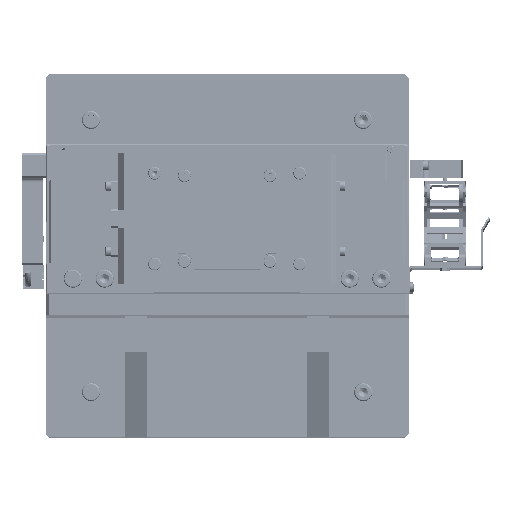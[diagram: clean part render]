
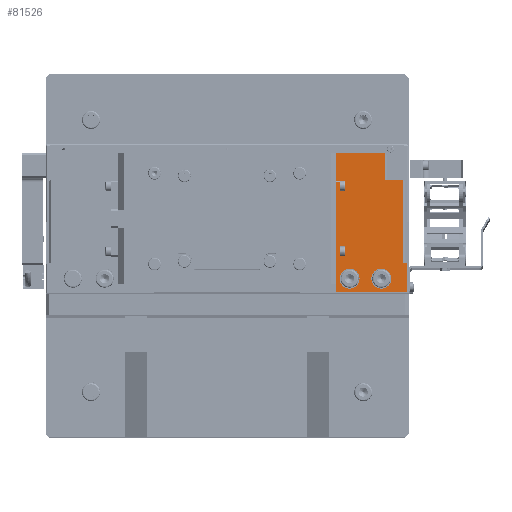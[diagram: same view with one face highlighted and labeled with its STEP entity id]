
A CAD part, top view. The second image highlights one B-rep face of the part: STEP entity #81526.
In plain terms, the highlighted planar face has unit normal (0, 0, 1).
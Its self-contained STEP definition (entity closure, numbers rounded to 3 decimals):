
#93 = CARTESIAN_POINT ( 'NONE',  ( 54., 56., 428. ) ) ;
#778 = VECTOR ( 'NONE', #19517, 1000. ) ;
#877 = CARTESIAN_POINT ( 'NONE',  ( 98., 16.5, 428. ) ) ;
#1343 = EDGE_LOOP ( 'NONE', ( #19737, #102582 ) ) ;
#1481 = VERTEX_POINT ( 'NONE', #134175 ) ;
#1722 = ORIENTED_EDGE ( 'NONE', *, *, #68131, .T. ) ;
#2663 = DIRECTION ( 'NONE',  ( -1., 0., 0. ) ) ;
#3699 = AXIS2_PLACEMENT_3D ( 'NONE', #4084, #87878, #34212 ) ;
#4084 = CARTESIAN_POINT ( 'NONE',  ( 85., 8., 428. ) ) ;
#6283 = VECTOR ( 'NONE', #84954, 1000. ) ;
#6489 = CARTESIAN_POINT ( 'NONE',  ( 0., 0.5, 428. ) ) ;
#7324 = LINE ( 'NONE', #32649, #48755 ) ;
#8349 = CARTESIAN_POINT ( 'NONE',  ( 99., 16.5, 428. ) ) ;
#8466 = LINE ( 'NONE', #44011, #39909 ) ;
#9596 = VERTEX_POINT ( 'NONE', #117594 ) ;
#9778 = ORIENTED_EDGE ( 'NONE', *, *, #125317, .F. ) ;
#11176 = DIRECTION ( 'NONE',  ( 1., 0., 0. ) ) ;
#12464 = LINE ( 'NONE', #94593, #106939 ) ;
#13644 = EDGE_CURVE ( 'NONE', #28393, #75849, #54439, .T. ) ;
#15604 = ORIENTED_EDGE ( 'NONE', *, *, #101775, .F. ) ;
#15940 = EDGE_CURVE ( 'NONE', #28393, #113592, #7324, .T. ) ;
#16954 = CARTESIAN_POINT ( 'NONE',  ( 97., 0.5, 428. ) ) ;
#17763 = VECTOR ( 'NONE', #59276, 1000. ) ;
#18248 = VERTEX_POINT ( 'NONE', #127017 ) ;
#18505 = CARTESIAN_POINT ( 'NONE',  ( 90.5, 8., 428. ) ) ;
#19060 = EDGE_LOOP ( 'NONE', ( #31264, #33065, #15604, #124508, #1722, #135804, #119066, #9778, #101461, #137096, #126838, #119046 ) ) ;
#19517 = DIRECTION ( 'NONE',  ( -1., 0., 0. ) ) ;
#19737 = ORIENTED_EDGE ( 'NONE', *, *, #125474, .F. ) ;
#24670 = DIRECTION ( 'NONE',  ( 0., 0., 1. ) ) ;
#25078 = VERTEX_POINT ( 'NONE', #65970 ) ;
#26216 = DIRECTION ( 'NONE',  ( 0., 1., 0. ) ) ;
#26218 = CIRCLE ( 'NONE', #56557, 5.5 ) ;
#26846 = PLANE ( 'NONE',  #126635 ) ;
#27799 = DIRECTION ( 'NONE',  ( 0., 0., 1. ) ) ;
#28393 = VERTEX_POINT ( 'NONE', #109943 ) ;
#31264 = ORIENTED_EDGE ( 'NONE', *, *, #13644, .F. ) ;
#32289 = LINE ( 'NONE', #83862, #778 ) ;
#32484 = DIRECTION ( 'NONE',  ( 0., 0., 1. ) ) ;
#32649 = CARTESIAN_POINT ( 'NONE',  ( -60., 26., 428. ) ) ;
#33065 = ORIENTED_EDGE ( 'NONE', *, *, #15940, .T. ) ;
#34212 = DIRECTION ( 'NONE',  ( 1., 0., 0. ) ) ;
#34951 = AXIS2_PLACEMENT_3D ( 'NONE', #126477, #32484, #11176 ) ;
#36160 = CARTESIAN_POINT ( 'NONE',  ( 87., 77., 428. ) ) ;
#38399 = EDGE_CURVE ( 'NONE', #130316, #45556, #67078, .T. ) ;
#39287 = CARTESIAN_POINT ( 'NONE',  ( 60., 26., 428. ) ) ;
#39909 = VECTOR ( 'NONE', #118560, 1000. ) ;
#42350 = CARTESIAN_POINT ( 'NONE',  ( 88., 62.5, 428. ) ) ;
#43453 = CARTESIAN_POINT ( 'NONE',  ( 87., 62.5, 428. ) ) ;
#44011 = CARTESIAN_POINT ( 'NONE',  ( 88., 77., 428. ) ) ;
#45556 = VERTEX_POINT ( 'NONE', #18505 ) ;
#46432 = VECTOR ( 'NONE', #54088, 1000. ) ;
#48755 = VECTOR ( 'NONE', #108990, 1000. ) ;
#51504 = DIRECTION ( 'NONE',  ( 0., 1., 0. ) ) ;
#52236 = DIRECTION ( 'NONE',  ( 0., 1., 0. ) ) ;
#54088 = DIRECTION ( 'NONE',  ( 1., 0., 0. ) ) ;
#54439 = LINE ( 'NONE', #136031, #77562 ) ;
#54958 = CARTESIAN_POINT ( 'NONE',  ( 100., 0.5, 428. ) ) ;
#56557 = AXIS2_PLACEMENT_3D ( 'NONE', #88144, #24670, #131632 ) ;
#59276 = DIRECTION ( 'NONE',  ( 0., 1., 0. ) ) ;
#59989 = CIRCLE ( 'NONE', #34951, 5.5 ) ;
#60302 = AXIS2_PLACEMENT_3D ( 'NONE', #102772, #27799, #81477 ) ;
#62583 = CARTESIAN_POINT ( 'NONE',  ( 60., 77., 428. ) ) ;
#63922 = CARTESIAN_POINT ( 'NONE',  ( 97., 16.5, 428. ) ) ;
#64649 = CARTESIAN_POINT ( 'NONE',  ( 87., 0.5, 428. ) ) ;
#65970 = CARTESIAN_POINT ( 'NONE',  ( 60., 56., 428. ) ) ;
#67078 = CIRCLE ( 'NONE', #3699, 5.5 ) ;
#67961 = VERTEX_POINT ( 'NONE', #63922 ) ;
#68131 = EDGE_CURVE ( 'NONE', #9596, #69114, #132166, .T. ) ;
#69114 = VERTEX_POINT ( 'NONE', #8349 ) ;
#69289 = CARTESIAN_POINT ( 'NONE',  ( 60., 77., 428. ) ) ;
#70084 = LINE ( 'NONE', #64649, #119794 ) ;
#70890 = VECTOR ( 'NONE', #2663, 1000. ) ;
#70996 = CARTESIAN_POINT ( 'NONE',  ( 79.5, 8., 428. ) ) ;
#71122 = VERTEX_POINT ( 'NONE', #62583 ) ;
#74835 = EDGE_CURVE ( 'NONE', #96400, #93308, #70084, .T. ) ;
#75849 = VERTEX_POINT ( 'NONE', #93 ) ;
#77562 = VECTOR ( 'NONE', #136486, 1000. ) ;
#81286 = VERTEX_POINT ( 'NONE', #136279 ) ;
#81477 = DIRECTION ( 'NONE',  ( 1., 0., 0. ) ) ;
#81526 = ADVANCED_FACE ( 'NONE', ( #103139, #128008, #131298 ), #26846, .F. ) ;
#83862 = CARTESIAN_POINT ( 'NONE',  ( -60., 56., 428. ) ) ;
#84954 = DIRECTION ( 'NONE',  ( 1., 0., 0. ) ) ;
#87878 = DIRECTION ( 'NONE',  ( 0., 0., 1. ) ) ;
#88144 = CARTESIAN_POINT ( 'NONE',  ( 85., 8., 428. ) ) ;
#88779 = DIRECTION ( 'NONE',  ( 0., 1., 0. ) ) ;
#88798 = EDGE_CURVE ( 'NONE', #1481, #109405, #59989, .T. ) ;
#89111 = EDGE_CURVE ( 'NONE', #67961, #81286, #107928, .T. ) ;
#90742 = DIRECTION ( 'NONE',  ( 0., 0., -1. ) ) ;
#91472 = EDGE_CURVE ( 'NONE', #25078, #71122, #135633, .T. ) ;
#91703 = CARTESIAN_POINT ( 'NONE',  ( 99., 0.5, 428. ) ) ;
#93308 = VERTEX_POINT ( 'NONE', #36160 ) ;
#94593 = CARTESIAN_POINT ( 'NONE',  ( 60., 77., 428. ) ) ;
#95760 = VECTOR ( 'NONE', #88779, 1000. ) ;
#96400 = VERTEX_POINT ( 'NONE', #43453 ) ;
#96399 = VECTOR ( 'NONE', #26216, 1000. ) ;
#96711 = CIRCLE ( 'NONE', #60302, 5.5 ) ;
#98735 = EDGE_LOOP ( 'NONE', ( #103593, #119606 ) ) ;
#99046 = LINE ( 'NONE', #54958, #70890 ) ;
#101461 = ORIENTED_EDGE ( 'NONE', *, *, #74835, .T. ) ;
#101775 = EDGE_CURVE ( 'NONE', #18248, #113592, #12464, .T. ) ;
#102582 = ORIENTED_EDGE ( 'NONE', *, *, #38399, .F. ) ;
#102759 = CARTESIAN_POINT ( 'NONE',  ( 62., 8., 428. ) ) ;
#102772 = CARTESIAN_POINT ( 'NONE',  ( 67.5, 8., 428. ) ) ;
#102934 = EDGE_CURVE ( 'NONE', #109405, #1481, #96711, .T. ) ;
#103139 = FACE_BOUND ( 'NONE', #1343, .T. ) ;
#103593 = ORIENTED_EDGE ( 'NONE', *, *, #88798, .F. ) ;
#104220 = EDGE_CURVE ( 'NONE', #71122, #93308, #8466, .T. ) ;
#106939 = VECTOR ( 'NONE', #51504, 1000. ) ;
#107928 = LINE ( 'NONE', #16954, #96399 ) ;
#108990 = DIRECTION ( 'NONE',  ( 1., 0., 0. ) ) ;
#109405 = VERTEX_POINT ( 'NONE', #102759 ) ;
#109943 = CARTESIAN_POINT ( 'NONE',  ( 54., 26., 428. ) ) ;
#111561 = DIRECTION ( 'NONE',  ( -1., 0., 0. ) ) ;
#111909 = EDGE_CURVE ( 'NONE', #67961, #69114, #125882, .T. ) ;
#113592 = VERTEX_POINT ( 'NONE', #39287 ) ;
#117594 = CARTESIAN_POINT ( 'NONE',  ( 99., 0.5, 428. ) ) ;
#118560 = DIRECTION ( 'NONE',  ( 1., 0., 0. ) ) ;
#119046 = ORIENTED_EDGE ( 'NONE', *, *, #136130, .T. ) ;
#119066 = ORIENTED_EDGE ( 'NONE', *, *, #89111, .T. ) ;
#119606 = ORIENTED_EDGE ( 'NONE', *, *, #102934, .F. ) ;
#119794 = VECTOR ( 'NONE', #52236, 1000. ) ;
#124508 = ORIENTED_EDGE ( 'NONE', *, *, #133790, .F. ) ;
#125317 = EDGE_CURVE ( 'NONE', #96400, #81286, #127174, .T. ) ;
#125474 = EDGE_CURVE ( 'NONE', #45556, #130316, #26218, .T. ) ;
#125882 = LINE ( 'NONE', #877, #46432 ) ;
#126477 = CARTESIAN_POINT ( 'NONE',  ( 67.5, 8., 428. ) ) ;
#126635 = AXIS2_PLACEMENT_3D ( 'NONE', #6489, #90742, #111561 ) ;
#126838 = ORIENTED_EDGE ( 'NONE', *, *, #91472, .F. ) ;
#127017 = CARTESIAN_POINT ( 'NONE',  ( 60., 0.5, 428. ) ) ;
#127174 = LINE ( 'NONE', #42350, #6283 ) ;
#128008 = FACE_BOUND ( 'NONE', #98735, .T. ) ;
#130316 = VERTEX_POINT ( 'NONE', #70996 ) ;
#131298 = FACE_OUTER_BOUND ( 'NONE', #19060, .T. ) ;
#131632 = DIRECTION ( 'NONE',  ( 1., 0., 0. ) ) ;
#132166 = LINE ( 'NONE', #91703, #17763 ) ;
#133790 = EDGE_CURVE ( 'NONE', #9596, #18248, #99046, .T. ) ;
#134175 = CARTESIAN_POINT ( 'NONE',  ( 73., 8., 428. ) ) ;
#135633 = LINE ( 'NONE', #69289, #95760 ) ;
#135804 = ORIENTED_EDGE ( 'NONE', *, *, #111909, .F. ) ;
#136031 = CARTESIAN_POINT ( 'NONE',  ( 54., 0.5, 428. ) ) ;
#136130 = EDGE_CURVE ( 'NONE', #25078, #75849, #32289, .T. ) ;
#136279 = CARTESIAN_POINT ( 'NONE',  ( 97., 62.5, 428. ) ) ;
#136486 = DIRECTION ( 'NONE',  ( 0., 1., 0. ) ) ;
#137096 = ORIENTED_EDGE ( 'NONE', *, *, #104220, .F. ) ;
